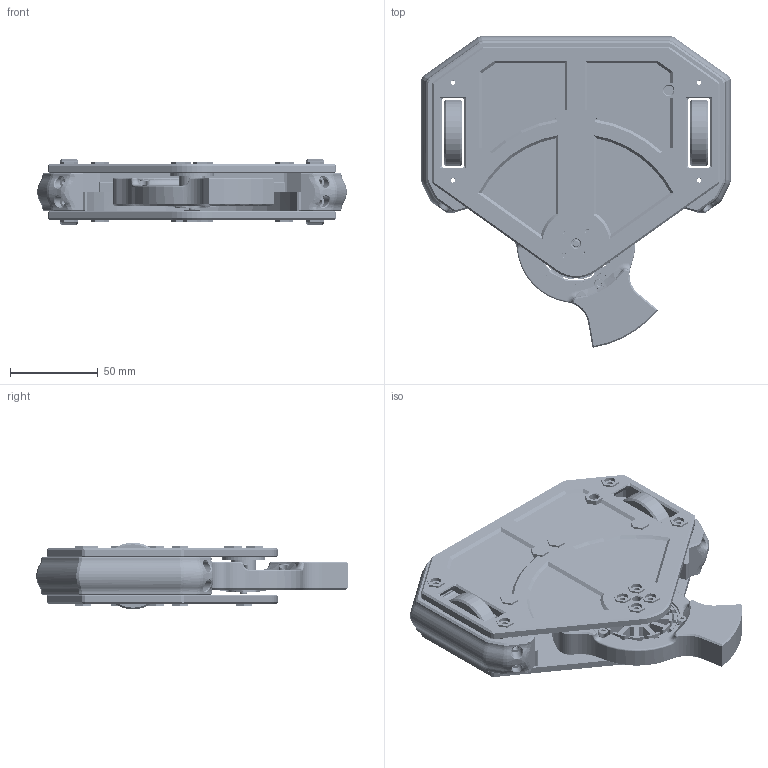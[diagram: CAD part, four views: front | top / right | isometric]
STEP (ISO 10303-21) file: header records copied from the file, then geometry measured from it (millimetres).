
FILE_DESCRIPTION(/* description */ (''),/* implementation_level */ '2;1');
FILE_NAME(/* name */ 'Combat Robot.step',/* time_stamp */ '2024-03-17T16:03:28-04:00',/* author */ (''),/* organization */ (''),/* preprocessor_version */ 'ST-DEVELOPER v20',/* originating_system */ 'Autodesk Translation Framework v12.20.1.177',/* authorisation */ '');
FILE_SCHEMA (('AUTOMOTIVE_DESIGN { 1 0 10303 214 3 1 1 }'));
Products named in the file (6): Malevolence Uploaded; 5010 Brushless v2; 5010 Stator v1; 5010 Rotor v1; 91290A115_Black-Oxide Alloy Steel Socket Head Screw; 683zz Bearing v1
Assembly tree (7 placements, depth 3):
  Malevolence Uploaded
    5010 Brushless v2
      5010 Stator v1
      5010 Rotor v1
    91290A115_Black-Oxide Alloy Steel Socket Head Screw  x3
    683zz Bearing v1
Bounding box: 175.98 x 177.24 x 38 mm (x, y, z)
Volume: 276942.5 mm3; surface area: 154747.7 mm2
Topology: 33 solids, 33 shells, 4570 faces, 11408 edges, 7474 vertices
Faces by surface type: plane 3210, cylinder 988, bspline 212, cone 145, torus 15
Full cylindrical faces by diameter (mm): 2.35 x54, 2.529 x129, 3 x55, 3.086 x61, 3.3 x7, 3.5 x14, 3.987 x2, 4 x5, 5 x1, 5.5 x4, 6 x2, 6.25 x19, 7 x1, 7.2 x1, 10 x1, 11 x2, 14 x2, 18 x1, 24.8 x1, 38 x2, 45.54 x1, 47.04 x2, 49.54 x2
Entity records: 136508 total; most frequent: CARTESIAN_POINT 65082, ORIENTED_EDGE 15832, DIRECTION 12794, EDGE_CURVE 7916, VERTEX_POINT 5156, LINE 4788, VECTOR 4788, AXIS2_PLACEMENT_3D 4003
